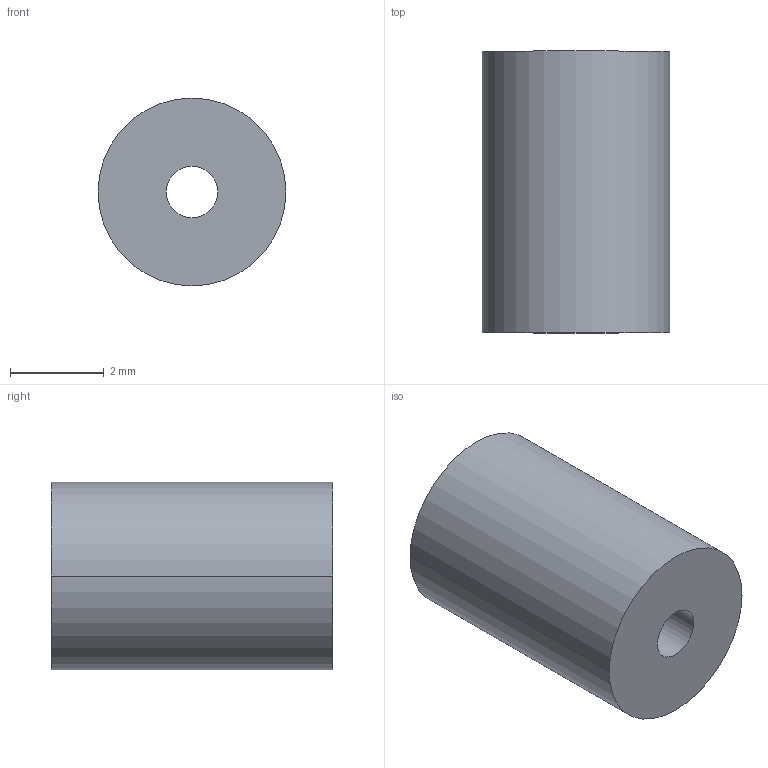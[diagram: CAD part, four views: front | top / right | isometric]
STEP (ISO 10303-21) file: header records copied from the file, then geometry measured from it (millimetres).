
FILE_DESCRIPTION (( 'STEP AP203' ), '1' );
FILE_NAME ('30800.WPP4A1.1.step', '2019-01-23T22:13:50', ( '' ), ( '' ), 'SwSTEP 2.0', 'SolidWorks 2017', '' );
FILE_SCHEMA (( 'CONFIG_CONTROL_DESIGN' ));
Length unit declared in the file: millimetre
Products named in the file (1): 30800.WPP4A1.1
Bounding box: 4 x 6 x 4 mm (x, y, z)
Volume: 68.7 mm3; surface area: 118.3 mm2
Topology: 1 solids, 1 shells, 8 faces, 16 edges, 10 vertices
Faces by surface type: cylinder 4, torus 2, plane 2
Entity records: 297 total; most frequent: DIRECTION 46, CARTESIAN_POINT 35, ORIENTED_EDGE 32, AXIS2_PLACEMENT_3D 21, EDGE_CURVE 16, CIRCLE 12, EDGE_LOOP 10, VERTEX_POINT 10
